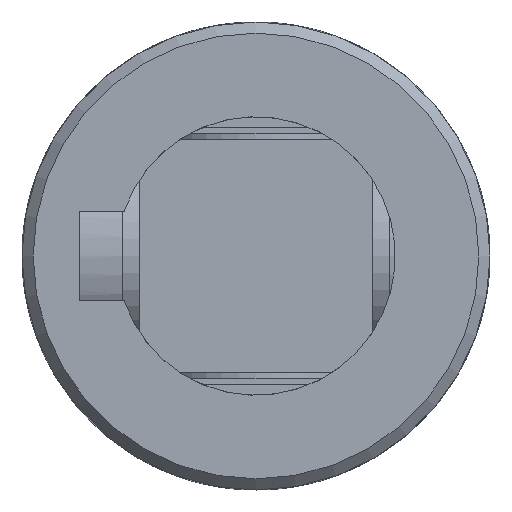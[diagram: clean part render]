
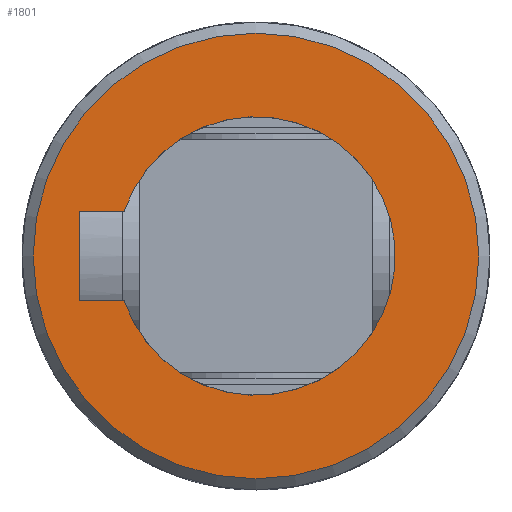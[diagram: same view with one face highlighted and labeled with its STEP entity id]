
A CAD part, front view. The second image highlights one B-rep face of the part: STEP entity #1801.
In plain terms, the highlighted planar face has unit normal (0, -1, 0).
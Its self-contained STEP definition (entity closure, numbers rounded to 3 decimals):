
#108=LINE('',#3478,#163);
#110=LINE('',#3494,#165);
#112=LINE('',#3498,#167);
#163=VECTOR('',#2380,3.957);
#165=VECTOR('',#2384,8.);
#167=VECTOR('',#2390,3.957);
#219=PLANE('',#1988);
#394=FACE_BOUND('',#632,.T.);
#485=FACE_OUTER_BOUND('',#631,.T.);
#631=EDGE_LOOP('',(#1572));
#632=EDGE_LOOP('',(#1573,#1574,#1575,#1576));
#728=CIRCLE('',#1978,12.5);
#732=CIRCLE('',#1986,20.);
#879=VERTEX_POINT('',#3446);
#880=VERTEX_POINT('',#3448);
#883=VERTEX_POINT('',#3477);
#885=VERTEX_POINT('',#3493);
#887=VERTEX_POINT('',#3502);
#1107=EDGE_CURVE('',#880,#879,#728,.T.);
#1112=EDGE_CURVE('',#883,#880,#108,.T.);
#1115=EDGE_CURVE('',#885,#883,#110,.T.);
#1118=EDGE_CURVE('',#879,#885,#112,.T.);
#1120=EDGE_CURVE('',#887,#887,#732,.T.);
#1572=ORIENTED_EDGE('',*,*,#1120,.F.);
#1573=ORIENTED_EDGE('',*,*,#1107,.T.);
#1574=ORIENTED_EDGE('',*,*,#1118,.T.);
#1575=ORIENTED_EDGE('',*,*,#1115,.T.);
#1576=ORIENTED_EDGE('',*,*,#1112,.T.);
#1801=ADVANCED_FACE('',(#485,#394),#219,.F.);
#1978=AXIS2_PLACEMENT_3D('',#3449,#2373,#2374);
#1986=AXIS2_PLACEMENT_3D('',#3503,#2395,#2396);
#1988=AXIS2_PLACEMENT_3D('',#3727,#2403,#2404);
#2373=DIRECTION('center_axis',(0.,1.,0.));
#2374=DIRECTION('ref_axis',(-0.32,0.,0.947));
#2380=DIRECTION('',(0.,0.,1.));
#2384=DIRECTION('',(-1.,0.,0.));
#2390=DIRECTION('',(0.,0.,-1.));
#2395=DIRECTION('center_axis',(0.,1.,0.));
#2396=DIRECTION('ref_axis',(1.,0.,0.));
#2403=DIRECTION('center_axis',(0.,1.,0.));
#2404=DIRECTION('ref_axis',(0.,0.,1.));
#3446=CARTESIAN_POINT('',(4.,-64.,-11.843));
#3448=CARTESIAN_POINT('',(-4.,-64.,-11.843));
#3449=CARTESIAN_POINT('Origin',(0.,-64.,0.));
#3477=CARTESIAN_POINT('',(-4.,-64.,-15.8));
#3478=CARTESIAN_POINT('',(-4.,-64.,-7.9));
#3493=CARTESIAN_POINT('',(4.,-64.,-15.8));
#3494=CARTESIAN_POINT('',(2.,-64.,-15.8));
#3498=CARTESIAN_POINT('',(4.,-64.,-5.921));
#3502=CARTESIAN_POINT('',(-20.,-64.,0.));
#3503=CARTESIAN_POINT('Origin',(0.,-64.,0.));
#3727=CARTESIAN_POINT('Origin',(0.,-64.,0.));
